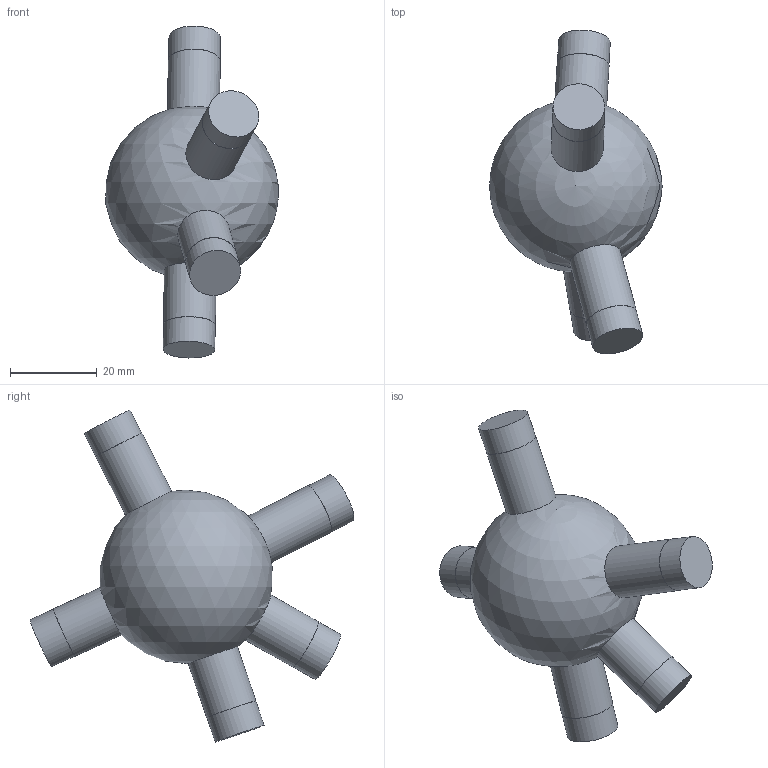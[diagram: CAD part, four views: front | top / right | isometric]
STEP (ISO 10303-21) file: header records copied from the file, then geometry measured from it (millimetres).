
FILE_DESCRIPTION(('Open CASCADE Model'),'2;1');
FILE_NAME('Open CASCADE Shape Model','2026-10-21T12:47:57',('Author'),( 'Open CASCADE'),'Open CASCADE STEP processor 7.9','Open CASCADE 7.9' ,'Unknown');
FILE_SCHEMA(('AUTOMOTIVE_DESIGN { 1 0 10303 214 1 1 1 1 }'));
Length unit declared in the file: millimetre
Products named in the file (1): Open CASCADE STEP translator 7.9 67
Bounding box: 39.82 x 74.74 x 76.61 mm (x, y, z)
Volume: 44406 mm3; surface area: 8742 mm2
Topology: 1 solids, 1 shells, 21 faces, 33 edges, 22 vertices
Faces by surface type: cylinder 10, plane 10, sphere 1
Full cylindrical faces by diameter (mm): 11.9 x5, 12 x5
Entity records: 1290 total; most frequent: CARTESIAN_POINT 565, DIRECTION 149, ORIENTED_EDGE 60, PCURVE 60, DEFINITIONAL_REPRESENTATION 60, LINE 50, VECTOR 50, AXIS2_PLACEMENT_3D 42
